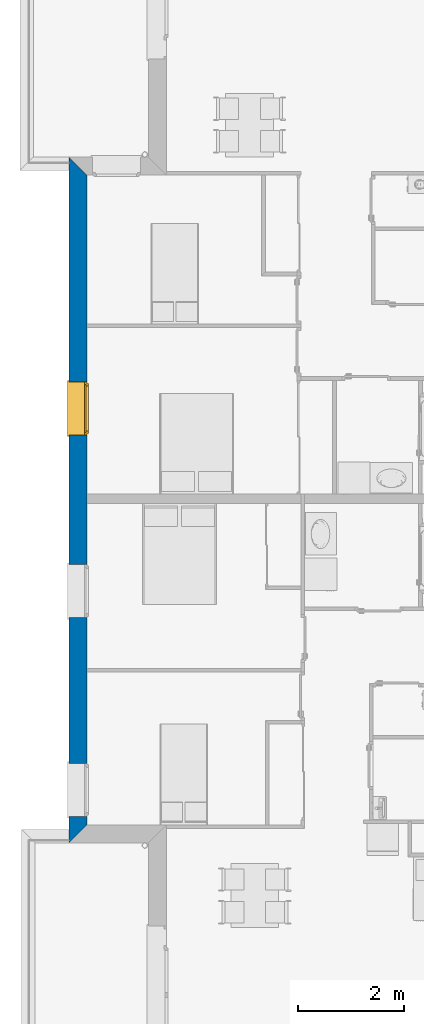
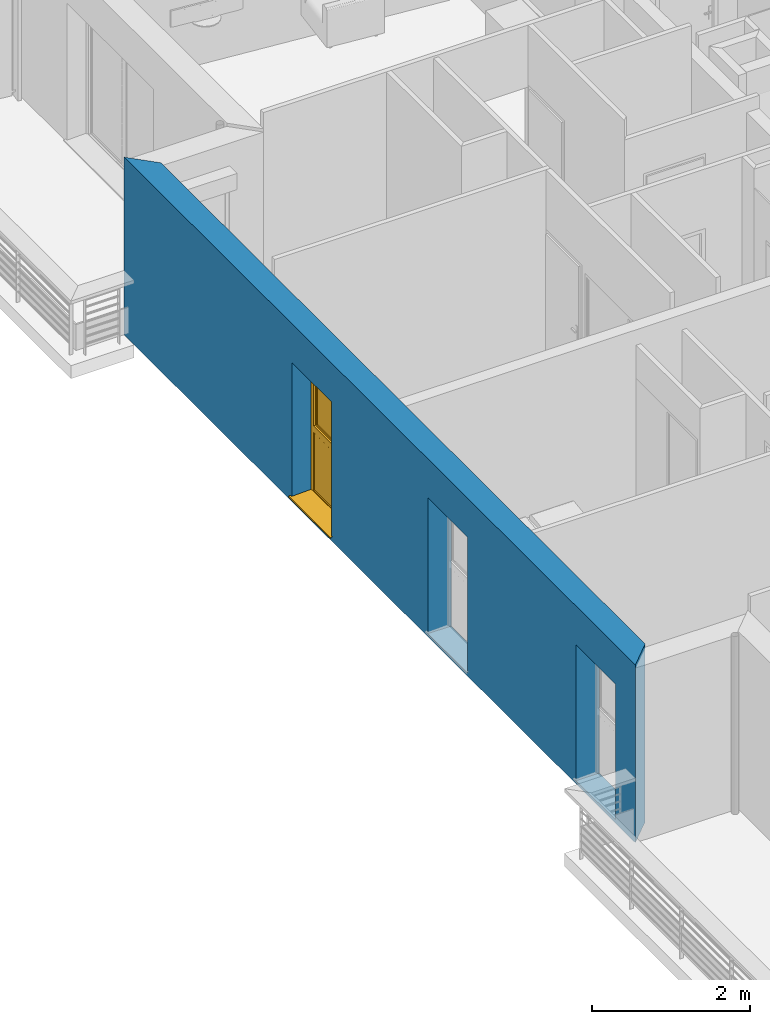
# One storey, part 25 of 164: 1 wall, 1 window, 3 openings.
"""IFC2X3 building model written with IfcOpenShell, lengths in millimetres."""

from ifc_helpers import new_model, entity, si_unit, converted_unit, derived_unit, money_unit, direction, frame, origin_with_axes, place, context, subcontext, project, spatial, polyline, outline, extrude, open_shell, faceted_brep, surface_model, source, transform, mapped, material, layer, layer_set, layer_usage, type_object, element, fill, save


model = new_model("IFC2X3")

# Units and contexts
model_context = context("Model", 3, precision=0.01, world=origin_with_axes(), true_north=direction((0.0, 1.0)))
body_context = subcontext(model_context, "Body", "Model", "MODEL_VIEW")
ifc_project = project(units=[si_unit("LENGTHUNIT", "METRE", prefix="MILLI"), si_unit("AREAUNIT", "SQUARE_METRE"), si_unit("VOLUMEUNIT", "CUBIC_METRE"), converted_unit("PLANEANGLEUNIT", "DEGREE", entity("IfcPlaneAngleMeasure", 0.0174532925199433), si_unit("PLANEANGLEUNIT", "RADIAN"), dimensions=[0, 0, 0, 0, 0, 0, 0]), money_unit("USD"), converted_unit("TIMEUNIT", "Year", entity("IfcTimeMeasure", 31557600.0), si_unit("TIMEUNIT", "SECOND"), dimensions=[0, 0, 1, 0, 0, 0, 0]), si_unit("MASSUNIT", "GRAM", prefix="KILO"), si_unit("THERMODYNAMICTEMPERATUREUNIT", "DEGREE_CELSIUS"), si_unit("LUMINOUSINTENSITYUNIT", "LUMEN"), si_unit("ENERGYUNIT", "JOULE", prefix="MEGA"), derived_unit("THERMALCONDUCTANCEUNIT", [(si_unit("POWERUNIT", "WATT"), 1), (si_unit("LENGTHUNIT", "METRE"), -1), (si_unit("THERMODYNAMICTEMPERATUREUNIT", "KELVIN"), -1)]), derived_unit("SPECIFICHEATCAPACITYUNIT", [(si_unit("ENERGYUNIT", "JOULE"), 1), (si_unit("MASSUNIT", "GRAM", prefix="KILO"), -1), (si_unit("THERMODYNAMICTEMPERATUREUNIT", "KELVIN"), -1)]), derived_unit("MASSDENSITYUNIT", [(si_unit("MASSUNIT", "GRAM", prefix="KILO"), 1), (si_unit("VOLUMEUNIT", "CUBIC_METRE"), -1)])], contexts=[model_context])

# Site, building, storey
site_placement = place(None, origin_with_axes())
site = spatial("IfcSite", under=ifc_project, at=site_placement, Name="Site", CompositionType="ELEMENT")
building_placement = place(site_placement, origin_with_axes())
building = spatial("IfcBuilding", under=site, at=building_placement, Name="Bâtiment", CompositionType="ELEMENT")
storey_placement = place(building_placement, frame((0.0, 0.0, 5750.0), z_axis=(0.0, 0.0, 1.0), x_axis=(1.0, 0.0, 0.0)))
storey = spatial("IfcBuildingStorey", under=building, at=storey_placement, Name="Etage1", CompositionType="ELEMENT", Elevation=5750.0)

# Wall, openings, window
ifc_material_1 = material(Name="Parpaing 312445824")
ifc_layer_1 = layer(ifc_material_1, 180.0, ventilated="UNKNOWN")
ifc_material_2 = material(Name="Isolant styromousse 301821074")
ifc_layer_2 = layer(ifc_material_2, 160.0, ventilated="UNKNOWN")
ifc_layer_set = layer_set([ifc_layer_1, ifc_layer_2], Name="isol int 18+16 0018356637")
ifc_layer_usage = layer_usage(ifc_layer_set, "AXIS2", "POSITIVE", 0.0)
wall_type = type_object("IfcWallType", Name="isol int 18+16 0018356637 340", PredefinedType="NOTDEFINED")
wall_placement = place(storey_placement, frame((2216634.23600678, -626071.2161261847, 0.0), z_axis=(0.0, 0.0, 1.0), x_axis=(5.891582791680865e-06, -0.9999999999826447, 0.0)))
wall = element("IfcWallStandardCase", 1, at=wall_placement, inside=storey, type_object=wall_type, material=ifc_layer_usage, Name="Mur-143", context=body_context, shape_type="SweptSolid", body=[
    extrude(outline(polyline([(-0.001993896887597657, 0.0), (12945.59157326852, 0.0), (12605.59357640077, 340.0000000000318), (340.0000092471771, 340.0000000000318), (-0.001993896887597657, 0.0)])), origin_with_axes(), (0.0, 0.0, 1.0), 2750.0),
])
opening_1_placement = place(wall_placement, frame((4744.546071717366, -1.13686837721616e-10, 49.99999999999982), z_axis=(0.0, 0.0, 1.0), x_axis=(1.0, 0.0, 0.0)))
opening_1 = element("IfcOpeningElement", 2, at=opening_1_placement, cuts=wall, Name="Fen-133", context=body_context, shape_type="Brep", body=[
    faceted_brep([(-499.9999999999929, 289.9999999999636, 2100.0), (-499.9999999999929, 341.0762700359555, 2100.0), (-500.0, 341.0762700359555, 0.0), (-500.0, 289.9999999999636, 0.0), (-499.9999999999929, 280.0000000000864, 2100.0), (-499.9999999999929, 280.0000000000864, 2350.0), (-500.0, 530.0000000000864, 2350.0), (-500.0, 530.0000000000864, 2100.0), (500.0, 341.0762700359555, 2100.0), (500.0, 341.0762700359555, 0.0), (500.0, 289.9999999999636, 0.0), (500.0, -1.076270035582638, 0.0), (-500.0, -1.076270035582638, 0.0), (-500.0, -1.076270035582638, 2100.0), (500.0, 280.0000000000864, 2100.0), (500.0, 280.0000000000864, 2350.0), (499.9999999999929, 529.9999999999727, 2350.0), (499.9999999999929, 529.9999999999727, 2100.0), (500.0, 289.9999999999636, 2100.0), (500.0, -1.076270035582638, 2100.0)], [[[0, 1, 2, 3]], [[1, 0, 4, 5, 6, 7]], [[1, 8, 9, 2]], [[10, 11, 12, 3, 2, 9]], [[4, 0, 3, 12, 13]], [[4, 14, 15, 5]], [[6, 5, 15, 16]], [[7, 6, 16, 17]], [[8, 1, 7, 17]], [[8, 18, 10, 9]], [[18, 14, 19, 11, 10]], [[13, 12, 11, 19]], [[14, 4, 13, 19]], [[18, 8, 17, 16, 15, 14]]]),
])
opening_2_placement = place(wall_placement, frame((11943.66357682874, -1.13686837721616e-10, 49.99999999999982), z_axis=(0.0, 0.0, 1.0), x_axis=(1.0, 0.0, 0.0)))
element("IfcOpeningElement", 3, at=opening_2_placement, cuts=wall, Name="Fen-133", context=body_context, shape_type="Brep", body=[
    faceted_brep([(-500.0, 290.0000000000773, 2100.0), (-500.0000000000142, 341.0762700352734, 2100.0), (-500.0000000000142, 341.0762700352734, 0.0), (-500.0, 290.0000000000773, 0.0), (-500.0, 280.0000000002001, 2100.0), (-500.0, 280.0000000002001, 2350.0), (-500.0000000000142, 529.9999999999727, 2350.0), (-500.0000000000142, 529.9999999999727, 2100.0), (500.0, 341.0762700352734, 2100.0), (499.9999999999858, 341.0762700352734, 0.0), (499.9999999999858, 289.9999999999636, 0.0), (500.0, -1.076270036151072, 0.0), (-500.0, -1.076270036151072, 0.0), (-500.0, -1.076270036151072, 2100.0), (500.0, 280.0000000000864, 2100.0), (500.0, 280.0000000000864, 2350.0), (500.0, 529.9999999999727, 2350.0), (500.0, 529.9999999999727, 2100.0), (500.0, 289.9999999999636, 2100.0), (500.0, -1.076270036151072, 2100.0)], [[[0, 1, 2, 3]], [[1, 0, 4, 5, 6, 7]], [[1, 8, 9, 2]], [[10, 11, 12, 3, 2, 9]], [[4, 0, 3, 12, 13]], [[4, 14, 15, 5]], [[15, 16, 6, 5]], [[16, 17, 7, 6]], [[8, 1, 7, 17]], [[8, 18, 10, 9]], [[18, 14, 19, 11, 10]], [[13, 12, 11, 19]], [[14, 4, 13, 19]], [[18, 8, 17, 16, 15, 14]]]),
])
opening_3_placement = place(wall_placement, frame((8194.484965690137, -1.13686837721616e-10, 49.99999999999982), z_axis=(0.0, 0.0, 1.0), x_axis=(1.0, 0.0, 0.0)))
element("IfcOpeningElement", 4, at=opening_3_placement, cuts=wall, Name="Fen-133", context=body_context, shape_type="Brep", body=[
    faceted_brep([(-500.0, 290.0000000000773, 2100.0), (-499.9999999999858, 341.076270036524, 2100.0), (-499.9999999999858, 341.076270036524, 0.0), (-499.9999999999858, 290.0000000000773, 0.0), (-500.0, 280.0000000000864, 2100.0), (-500.0, 280.0000000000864, 2350.0), (-499.9999999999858, 530.0000000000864, 2350.0), (-499.9999999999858, 530.0000000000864, 2100.0), (500.0000000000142, 341.076270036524, 2100.0), (500.0, 341.076270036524, 0.0), (500.0000000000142, 289.9999999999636, 0.0), (500.0000000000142, -1.076270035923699, 0.0), (-499.9999999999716, -1.076270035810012, 0.0), (-499.9999999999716, -1.076270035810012, 2100.0), (500.0000000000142, 280.0000000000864, 2100.0), (500.0000000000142, 280.0000000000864, 2350.0), (500.0000000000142, 530.0000000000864, 2350.0), (500.0000000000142, 530.0000000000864, 2100.0), (500.0000000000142, 289.9999999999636, 2100.0), (500.0000000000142, -1.076270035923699, 2100.0)], [[[0, 1, 2, 3]], [[1, 0, 4, 5, 6, 7]], [[1, 8, 9, 2]], [[10, 11, 12, 3, 2, 9]], [[4, 0, 3, 12, 13]], [[4, 14, 15, 5]], [[6, 5, 15, 16]], [[7, 6, 16, 17]], [[8, 1, 7, 17]], [[8, 18, 10, 9]], [[18, 14, 19, 11, 10]], [[13, 12, 11, 19]], [[14, 4, 13, 19]], [[18, 8, 17, 16, 15, 14]]]),
])
window_style = type_object("IfcWindowStyle", Name="Fenêtre 27", ConstructionType="NOTDEFINED", OperationType="DOUBLE_PANEL_HORIZONTAL", ParameterTakesPrecedence=False, Sizeable=False)
shared_shape = source(origin_with_axes(), body_context, "Body", "SurfaceModel", [
    surface_model("IfcShellBasedSurfaceModel", [(-500.0, -51.00000000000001, 40.00000000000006), (500.0, -51.00000000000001, 40.0), (500.0, -51.00000000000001, 50.0), (-500.0, -51.00000000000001, 50.00000000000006), (-530.0, -369.9999999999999, 28.96551724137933), (530.0, -369.9999999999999, 28.96551724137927), (530.0, -339.9999999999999, 30.00324289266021), (500.0, -339.9999999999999, 30.00324289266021), (-500.0, -339.9999999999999, 30.00324289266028), (-530.0, -339.9999999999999, 30.00324289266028), (-530.0, -369.9999999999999, 8.96551724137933), (530.0, -369.9999999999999, 8.965517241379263), (-530.0, -359.9999999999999, 18.96551724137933), (530.0, -359.9999999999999, 18.96551724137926)], [open_shell([[[0, 1, 2, 3]], [[4, 5, 6, 7, 1, 0, 8, 9]], [[10, 11, 5, 4]], [[12, 13, 11, 10]]])]),
    faceted_brep([(500.0, -59.99999999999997, 2350.0), (500.0, 190.0, 2350.0), (497.0, 190.0, 2350.0), (497.0, -59.99999999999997, 2350.0), (500.0, -59.99999999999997, 2100.0), (500.0, 190.0, 2100.0), (497.0, 190.0, 2100.0), (497.0, -59.99999999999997, 2100.0)], [[[0, 1, 2, 3]], [[0, 4, 5, 1]], [[1, 5, 6, 2]], [[3, 2, 6, 7]], [[4, 0, 3, 7]], [[5, 4, 7, 6]]]),
    faceted_brep([(-497.0, -59.99999999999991, 2350.0), (-497.0, 190.0000000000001, 2350.0), (-500.0, 190.0000000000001, 2350.0), (-500.0, -59.99999999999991, 2350.0), (-497.0, -59.99999999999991, 2100.0), (-497.0, 190.0000000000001, 2100.0), (-500.0, 190.0000000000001, 2100.0), (-500.0, -59.99999999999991, 2100.0)], [[[0, 1, 2, 3]], [[0, 4, 5, 1]], [[1, 5, 6, 2]], [[3, 2, 6, 7]], [[4, 0, 3, 7]], [[5, 4, 7, 6]]]),
    faceted_brep([(497.0, -60.0, 2100.0), (497.0, -60.0, 2350.0), (-497.0, -59.99999999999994, 2350.0), (-497.0, -59.99999999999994, 2100.0), (497.0, -56.99999999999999, 2100.0), (497.0, -56.99999999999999, 2347.0), (497.0, 187.0, 2347.0), (497.0, 187.0, 2103.0), (497.0, -37.99999999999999, 2103.0), (497.0, -37.99999999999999, 2100.0), (497.0, 190.0, 2100.0), (497.0, 190.0, 2350.0), (-497.0, 190.0000000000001, 2350.0), (-497.0, 190.0000000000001, 2100.0), (-497.0, -37.99999999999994, 2100.0), (-497.0, -37.99999999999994, 2103.0), (-497.0, 187.0000000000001, 2103.0), (-497.0, 187.0000000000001, 2347.0), (-497.0, -56.99999999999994, 2347.0), (-497.0, -56.99999999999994, 2100.0)], [[[0, 1, 2, 3]], [[0, 4, 5, 6, 7, 8, 9, 10, 11, 1]], [[1, 11, 12, 2]], [[3, 2, 12, 13, 14, 15, 16, 17, 18, 19]], [[4, 0, 3, 19]], [[5, 4, 19, 18]], [[6, 5, 18, 17]], [[7, 6, 17, 16]], [[8, 7, 16, 15]], [[9, 8, 15, 14]], [[10, 9, 14, 13]], [[11, 10, 13, 12]]]),
    faceted_brep([(494.0, -40.37442957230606, 2206.419644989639), (494.0, -35.54711042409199, 2188.403844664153), (494.0, -27.66471820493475, 2171.5), (494.0, -16.9667554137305, 2156.22172576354), (494.0, -3.778274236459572, 2143.03324458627), (494.0, 11.50000000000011, 2132.335281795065), (494.0, 28.40384466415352, 2124.452889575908), (494.0, 46.4196449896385, 2119.625570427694), (494.0, 65.00000000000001, 2118.0), (494.0, 83.58035501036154, 2119.625570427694), (494.0, 101.5961553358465, 2124.452889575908), (494.0, 118.4999999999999, 2132.335281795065), (494.0, 133.7782742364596, 2143.03324458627), (494.0, 146.9667554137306, 2156.22172576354), (494.0, 157.6647182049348, 2171.5), (494.0, 165.5471104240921, 2188.403844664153), (494.0, 170.3744295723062, 2206.419644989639), (494.0, 171.9999999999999, 2225.0), (494.0, 170.3744295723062, 2243.580355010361), (494.0, 165.5471104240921, 2261.596155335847), (494.0, 157.6647182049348, 2278.5), (494.0, 146.9667554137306, 2293.77827423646), (494.0, 133.7782742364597, 2306.966755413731), (494.0, 118.5, 2317.664718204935), (494.0, 101.5961553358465, 2325.547110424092), (494.0, 83.58035501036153, 2330.374429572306), (494.0, 64.99999999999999, 2332.0), (494.0, 46.41964498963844, 2330.374429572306), (494.0, 28.40384466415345, 2325.547110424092), (494.0, 11.5, 2317.664718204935), (494.0, -3.778274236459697, 2306.966755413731), (494.0, -16.96675541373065, 2293.77827423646), (494.0, -27.66471820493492, 2278.5), (494.0, -35.54711042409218, 2261.596155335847), (494.0, -40.37442957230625, 2243.580355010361), (494.0, -41.99999999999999, 2225.0), (-494.0, -40.374429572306, 2206.419644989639), (-494.0, -35.54711042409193, 2188.403844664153), (-494.0, -27.6647182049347, 2171.5), (-494.0, -16.96675541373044, 2156.22172576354), (-494.0, -3.778274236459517, 2143.03324458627), (-494.0, 11.50000000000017, 2132.335281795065), (-494.0, 28.40384466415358, 2124.452889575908), (-494.0, 46.41964498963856, 2119.625570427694), (-494.0, 65.00000000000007, 2118.0), (-494.0, 83.5803550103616, 2119.625570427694), (-494.0, 101.5961553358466, 2124.452889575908), (-494.0, 118.5, 2132.335281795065), (-494.0, 133.7782742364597, 2143.03324458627), (-494.0, 146.9667554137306, 2156.22172576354), (-494.0, 157.6647182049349, 2171.5), (-494.0, 165.5471104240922, 2188.403844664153), (-494.0, 170.3744295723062, 2206.419644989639), (-494.0, 172.0, 2225.0), (-494.0, 170.3744295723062, 2243.580355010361), (-494.0, 165.5471104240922, 2261.596155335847), (-494.0, 157.6647182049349, 2278.5), (-494.0, 146.9667554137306, 2293.77827423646), (-494.0, 133.7782742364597, 2306.966755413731), (-494.0, 118.5, 2317.664718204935), (-494.0, 101.5961553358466, 2325.547110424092), (-494.0, 83.58035501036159, 2330.374429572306), (-494.0, 65.00000000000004, 2332.0), (-494.0, 46.41964498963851, 2330.374429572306), (-494.0, 28.40384466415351, 2325.547110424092), (-494.0, 11.50000000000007, 2317.664718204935), (-494.0, -3.778274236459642, 2306.966755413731), (-494.0, -16.96675541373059, 2293.77827423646), (-494.0, -27.66471820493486, 2278.5), (-494.0, -35.54711042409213, 2261.596155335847), (-494.0, -40.37442957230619, 2243.580355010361), (-494.0, -41.99999999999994, 2225.0)], [[[0, 1, 2, 3, 4, 5, 6, 7, 8, 9, 10, 11, 12, 13, 14, 15, 16, 17, 18, 19, 20, 21, 22, 23, 24, 25, 26, 27, 28, 29, 30, 31, 32, 33, 34, 35]], [[1, 0, 36, 37]], [[2, 1, 37, 38]], [[3, 2, 38, 39]], [[4, 3, 39, 40]], [[5, 4, 40, 41]], [[6, 5, 41, 42]], [[7, 6, 42, 43]], [[8, 7, 43, 44]], [[9, 8, 44, 45]], [[10, 9, 45, 46]], [[11, 10, 46, 47]], [[12, 11, 47, 48]], [[13, 12, 48, 49]], [[14, 13, 49, 50]], [[15, 14, 50, 51]], [[16, 15, 51, 52]], [[17, 16, 52, 53]], [[18, 17, 53, 54]], [[19, 18, 54, 55]], [[20, 19, 55, 56]], [[21, 20, 56, 57]], [[22, 21, 57, 58]], [[23, 22, 58, 59]], [[24, 23, 59, 60]], [[25, 24, 60, 61]], [[26, 25, 61, 62]], [[27, 26, 62, 63]], [[28, 27, 63, 64]], [[29, 28, 64, 65]], [[30, 29, 65, 66]], [[31, 30, 66, 67]], [[32, 31, 67, 68]], [[33, 32, 68, 69]], [[34, 33, 69, 70]], [[35, 34, 70, 71]], [[0, 35, 71, 36]], [[36, 71, 70, 69, 68, 67, 66, 65, 64, 63, 62, 61, 60, 59, 58, 57, 56, 55, 54, 53, 52, 51, 50, 49, 48, 47, 46, 45, 44, 43, 42, 41, 40, 39, 38, 37]]]),
    faceted_brep([(-500.0, -34.99999999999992, 30.0), (-500.0, -59.99999999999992, 30.0), (-500.0, -59.99999999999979, 2100.0), (-500.0, -34.99999999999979, 2100.0), (-475.0, -34.99999999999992, 30.0), (-475.0, -37.99999999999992, 30.0), (-497.0, -37.99999999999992, 30.0), (-497.0, -56.99999999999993, 30.0), (-475.0, -56.99999999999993, 30.0), (-475.0, -59.99999999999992, 30.0), (-475.0, -59.99999999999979, 2100.0), (-475.0, -56.99999999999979, 2100.0), (-497.0, -56.99999999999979, 2100.0), (-497.0, -37.99999999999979, 2100.0), (-475.0, -37.99999999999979, 2100.0), (-475.0, -34.99999999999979, 2100.0)], [[[0, 1, 2, 3]], [[0, 4, 5, 6, 7, 8, 9, 1]], [[1, 9, 10, 2]], [[3, 2, 10, 11, 12, 13, 14, 15]], [[4, 0, 3, 15]], [[5, 4, 15, 14]], [[6, 5, 14, 13]], [[7, 6, 13, 12]], [[8, 7, 12, 11]], [[9, 8, 11, 10]]]),
    faceted_brep([(500.0, -34.99999999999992, 30.0), (500.0, -34.99999999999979, 2100.0), (500.0, -59.99999999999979, 2100.0), (500.0, -59.99999999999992, 30.0), (475.0, -34.99999999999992, 30.0), (475.0, -34.99999999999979, 2100.0), (475.0, -37.99999999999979, 2100.0), (497.0, -37.99999999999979, 2100.0), (497.0, -56.99999999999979, 2100.0), (475.0, -56.99999999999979, 2100.0), (475.0, -59.99999999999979, 2100.0), (475.0, -59.99999999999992, 30.0), (475.0, -56.99999999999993, 30.0), (497.0, -56.99999999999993, 30.0), (497.0, -37.99999999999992, 30.0), (475.0, -37.99999999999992, 30.0)], [[[0, 1, 2, 3]], [[4, 5, 1, 0]], [[1, 5, 6, 7, 8, 9, 10, 2]], [[3, 2, 10, 11]], [[0, 3, 11, 12, 13, 14, 15, 4]], [[15, 6, 5, 4]], [[14, 7, 6, 15]], [[13, 8, 7, 14]], [[12, 9, 8, 13]], [[11, 10, 9, 12]]]),
    faceted_brep([(-497.0, -46.66666666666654, 2225.0), (497.0, -46.6666666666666, 2225.0), (497.0, -46.6666666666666, 2216.666666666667), (-497.0, -46.66666666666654, 2216.666666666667), (-497.0, -51.66666666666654, 2225.0), (497.0, -51.6666666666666, 2225.0), (497.0, -51.6666666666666, 2216.666666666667), (497.0, -49.99999999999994, 2200.0), (497.0, -44.99999999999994, 2200.0), (-497.0, -44.99999999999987, 2200.0), (-497.0, -49.99999999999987, 2200.0), (-497.0, -51.66666666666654, 2216.666666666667)], [[[0, 1, 2, 3]], [[1, 0, 4, 5]], [[1, 5, 6, 7, 8, 2]], [[2, 8, 9, 3]], [[4, 0, 3, 9, 10, 11]], [[6, 5, 4, 11]], [[7, 6, 11, 10]], [[8, 7, 10, 9]]]),
    faceted_brep([(497.0, -44.99999999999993, 2200.0), (497.0, -46.6666666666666, 2183.333333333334), (-497.0, -46.66666666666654, 2183.333333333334), (-497.0, -44.99999999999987, 2200.0), (497.0, -49.99999999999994, 2200.0), (497.0, -51.6666666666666, 2183.333333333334), (497.0, -51.6666666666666, 2166.666666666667), (497.0, -49.99999999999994, 2150.000000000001), (497.0, -44.99999999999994, 2150.000000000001), (497.0, -46.6666666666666, 2166.666666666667), (-497.0, -46.66666666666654, 2166.666666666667), (-497.0, -44.99999999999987, 2150.000000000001), (-497.0, -49.99999999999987, 2150.000000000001), (-497.0, -51.66666666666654, 2166.666666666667), (-497.0, -51.66666666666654, 2183.333333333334), (-497.0, -49.99999999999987, 2200.0)], [[[0, 1, 2, 3]], [[0, 4, 5, 6, 7, 8, 9, 1]], [[1, 9, 10, 2]], [[3, 2, 10, 11, 12, 13, 14, 15]], [[4, 0, 3, 15]], [[5, 4, 15, 14]], [[6, 5, 14, 13]], [[7, 6, 13, 12]], [[8, 7, 12, 11]], [[9, 8, 11, 10]]]),
    faceted_brep([(497.0, -44.99999999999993, 2150.000000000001), (497.0, -46.6666666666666, 2133.333333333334), (-497.0, -46.66666666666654, 2133.333333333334), (-497.0, -44.99999999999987, 2150.000000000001), (497.0, -49.99999999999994, 2150.000000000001), (497.0, -51.6666666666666, 2133.333333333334), (497.0, -51.6666666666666, 2116.666666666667), (497.0, -49.99999999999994, 2100.000000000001), (497.0, -44.99999999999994, 2100.000000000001), (497.0, -46.6666666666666, 2116.666666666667), (-497.0, -46.66666666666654, 2116.666666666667), (-497.0, -44.99999999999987, 2100.000000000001), (-497.0, -49.99999999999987, 2100.000000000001), (-497.0, -51.66666666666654, 2116.666666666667), (-497.0, -51.66666666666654, 2133.333333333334), (-497.0, -49.99999999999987, 2150.000000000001)], [[[0, 1, 2, 3]], [[0, 4, 5, 6, 7, 8, 9, 1]], [[1, 9, 10, 2]], [[3, 2, 10, 11, 12, 13, 14, 15]], [[4, 0, 3, 15]], [[5, 4, 15, 14]], [[6, 5, 14, 13]], [[7, 6, 13, 12]], [[8, 7, 12, 11]], [[9, 8, 11, 10]]]),
    faceted_brep([(475.0000000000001, 0.0, 2050.0), (475.0000000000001, -25.00000000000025, 2050.0), (450.0, -25.00000000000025, 2050.0), (450.0, -50.00000000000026, 2050.0), (500.0, -50.00000000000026, 2050.0), (500.0, 0.0, 2050.0), (475.0000000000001, 0.0, 1025.0), (475.0000000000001, -25.00000000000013, 1025.0), (450.0, -25.00000000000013, 1050.0), (450.0, -25.00000000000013, 1025.0), (450.0, -50.00000000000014, 1050.0), (450.0, -50.00000000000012, 950.0), (450.0, -50.00000000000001, 50.00000000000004), (500.0, -50.00000000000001, 50.00000000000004), (500.0, 0.0, 50.00000000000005), (450.0, 0.0, 50.00000000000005), (450.0, 0.0, 950.0), (450.0, 0.0, 1025.0)], [[[0, 1, 2, 3, 4, 5]], [[1, 0, 6, 7]], [[8, 2, 1, 7, 9]], [[2, 8, 10, 3]], [[10, 11, 12, 13, 4, 3]], [[5, 4, 13, 14]], [[6, 0, 5, 14, 15, 16, 17]], [[6, 17, 9, 7]], [[9, 17, 16, 11, 10, 8]], [[15, 12, 11, 16]], [[14, 13, 12, 15]]]),
    faceted_brep([(-450.0, -25.00000000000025, 2050.0), (-475.0000000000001, -25.00000000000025, 2050.0), (-475.0000000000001, 0.0, 2050.0), (-500.0, 0.0, 2050.0), (-500.0, -50.00000000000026, 2050.0), (-450.0, -50.00000000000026, 2050.0), (-450.0, -25.00000000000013, 1050.0), (-450.0, -25.00000000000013, 1025.0), (-475.0000000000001, -25.00000000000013, 1025.0), (-475.0000000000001, 0.0, 1025.0), (-450.0, 0.0, 1025.0), (-450.0, 0.0, 950.0), (-450.0, 0.0, 50.00000000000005), (-500.0, 0.0, 50.00000000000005), (-500.0, -50.00000000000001, 50.00000000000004), (-450.0, -50.00000000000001, 50.00000000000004), (-450.0, -50.00000000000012, 950.0), (-450.0, -50.00000000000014, 1050.0)], [[[0, 1, 2, 3, 4, 5]], [[1, 0, 6, 7, 8]], [[9, 2, 1, 8]], [[9, 10, 11, 12, 13, 3, 2]], [[13, 14, 4, 3]], [[14, 15, 16, 17, 5, 4]], [[6, 0, 5, 17]], [[7, 6, 17, 16, 11, 10]], [[10, 9, 8, 7]], [[11, 16, 15, 12]], [[12, 15, 14, 13]]]),
    faceted_brep([(450.0, -25.00000000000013, 1050.0), (-450.0, -25.00000000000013, 1050.0), (-450.0, -50.00000000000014, 1050.0), (450.0, -50.00000000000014, 1050.0), (-450.0, -25.00000000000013, 1025.0), (450.0, -25.00000000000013, 1025.0), (-450.0, 0.0, 1025.0), (-450.0, 0.0, 950.0), (-450.0, -50.00000000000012, 950.0), (450.0, -50.00000000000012, 950.0), (450.0, 0.0, 950.0), (450.0, 0.0, 1025.0)], [[[0, 1, 2, 3]], [[4, 1, 0, 5]], [[4, 6, 7, 8, 2, 1]], [[8, 9, 3, 2]], [[5, 0, 3, 9, 10, 11]], [[11, 6, 4, 5]], [[6, 11, 10, 7]], [[10, 9, 8, 7]]]),
    faceted_brep([(475.0000000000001, 0.0, 2050.0), (475.0000000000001, 0.0, 2075.0), (-475.0000000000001, 0.0, 2075.0), (-475.0000000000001, 0.0, 2050.0), (-500.0, 0.0, 2050.0), (-500.0, 0.0, 2100.0), (500.0, 0.0, 2100.0), (500.0, 0.0, 2050.0), (475.0000000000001, -25.00000000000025, 2050.0), (475.0000000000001, -25.00000000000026, 2075.0), (-475.0000000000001, -25.00000000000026, 2075.0), (-475.0000000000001, -25.00000000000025, 2050.0), (-450.0, -25.00000000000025, 2050.0), (-450.0, -50.00000000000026, 2050.0), (-500.0, -50.00000000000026, 2050.0), (-500.0, -50.00000000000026, 2100.0), (500.0, -50.00000000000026, 2100.0), (500.0, -50.00000000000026, 2050.0), (450.0, -50.00000000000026, 2050.0), (450.0, -25.00000000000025, 2050.0)], [[[0, 1, 2, 3, 4, 5, 6, 7]], [[1, 0, 8, 9]], [[2, 1, 9, 10]], [[3, 2, 10, 11]], [[11, 12, 13, 14, 4, 3]], [[4, 14, 15, 5]], [[5, 15, 16, 6]], [[6, 16, 17, 7]], [[8, 0, 7, 17, 18, 19]], [[12, 11, 10, 9, 8, 19]], [[12, 19, 18, 13]], [[14, 13, 18, 17, 16, 15]]]),
    faceted_brep([(450.0, -50.00000000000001, 50.0), (500.0, -50.00000000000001, 50.0), (500.0, 0.0, 50.00000000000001), (450.0, 0.0, 50.00000000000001), (-450.0, -50.00000000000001, 50.0), (-500.0, -50.00000000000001, 50.0), (-500.0, -50.0, 0.0), (500.0, -50.0, 0.0), (500.0, 0.0, 0.0), (-500.0, 0.0, 0.0), (-500.0, 0.0, 50.00000000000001), (-450.0, 0.0, 50.00000000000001)], [[[0, 1, 2, 3]], [[0, 4, 5, 6, 7, 1]], [[1, 7, 8, 2]], [[3, 2, 8, 9, 10, 11]], [[4, 0, 3, 11]], [[5, 4, 11, 10]], [[6, 5, 10, 9]], [[7, 6, 9, 8]]]),
    faceted_brep([(425.0000000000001, -25.00000000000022, 2025.0), (475.0000000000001, -25.00000000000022, 2025.0), (475.0000000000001, 24.99999999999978, 2025.0), (425.0000000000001, 24.99999999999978, 2025.0), (425.0000000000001, -25.00000000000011, 1075.0), (475.0000000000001, -25.0000000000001, 1075.0), (475.0000000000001, 24.9999999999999, 1075.0), (425.0000000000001, 24.9999999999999, 1075.0)], [[[0, 1, 2, 3]], [[0, 4, 5, 1]], [[1, 5, 6, 2]], [[3, 2, 6, 7]], [[4, 0, 3, 7]], [[5, 4, 7, 6]]]),
    faceted_brep([(-425.0000000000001, -25.00000000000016, 1075.0), (-475.0000000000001, -25.00000000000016, 1075.0), (-475.0000000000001, 24.99999999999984, 1075.0), (-425.0000000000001, 24.99999999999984, 1075.0), (-425.0000000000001, -25.00000000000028, 2025.0), (-475.0000000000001, -25.00000000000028, 2025.0), (-475.0000000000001, 24.99999999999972, 2025.0), (-425.0000000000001, 24.99999999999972, 2025.0)], [[[0, 1, 2, 3]], [[0, 4, 5, 1]], [[1, 5, 6, 2]], [[3, 2, 6, 7]], [[4, 0, 3, 7]], [[5, 4, 7, 6]]]),
    faceted_brep([(-475.0000000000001, -25.00000000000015, 1025.0), (-475.0000000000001, -25.00000000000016, 1075.0), (-475.0000000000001, 24.99999999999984, 1075.0), (-475.0000000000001, 24.99999999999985, 1025.0), (475.0000000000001, -25.0000000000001, 1025.0), (475.0000000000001, -25.0000000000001, 1075.0), (425.0000000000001, -25.00000000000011, 1075.0), (-425.0000000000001, -25.00000000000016, 1075.0), (-425.0000000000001, 24.99999999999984, 1075.0), (425.0000000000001, 24.9999999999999, 1075.0), (475.0000000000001, 24.9999999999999, 1075.0), (475.0000000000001, 24.9999999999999, 1025.0)], [[[0, 1, 2, 3]], [[0, 4, 5, 6, 7, 1]], [[1, 7, 8, 2]], [[3, 2, 8, 9, 10, 11]], [[4, 0, 3, 11]], [[5, 4, 11, 10]], [[6, 5, 10, 9]], [[7, 6, 9, 8]]]),
    faceted_brep([(475.0000000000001, -25.00000000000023, 2075.0), (475.0000000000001, -25.00000000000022, 2025.0), (475.0000000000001, 24.99999999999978, 2025.0), (475.0000000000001, 24.99999999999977, 2075.0), (-475.0000000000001, -25.00000000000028, 2075.0), (-475.0000000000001, -25.00000000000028, 2025.0), (-425.0000000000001, -25.00000000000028, 2025.0), (425.0000000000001, -25.00000000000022, 2025.0), (425.0000000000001, 24.99999999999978, 2025.0), (-425.0000000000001, 24.99999999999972, 2025.0), (-475.0000000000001, 24.99999999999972, 2025.0), (-475.0000000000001, 24.99999999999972, 2075.0)], [[[0, 1, 2, 3]], [[0, 4, 5, 6, 7, 1]], [[1, 7, 8, 2]], [[3, 2, 8, 9, 10, 11]], [[4, 0, 3, 11]], [[5, 4, 11, 10]], [[6, 5, 10, 9]], [[7, 6, 9, 8]]]),
    surface_model("IfcShellBasedSurfaceModel", [(425.0000000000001, -10.00000000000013, 1075.0), (425.0000000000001, -10.00000000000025, 2025.0), (-425.0000000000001, -10.00000000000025, 2025.0), (-425.0000000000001, -10.00000000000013, 1075.0)], [open_shell([[[0, 1, 2, 3]]])]),
    surface_model("IfcShellBasedSurfaceModel", [(425.0000000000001, 9.999999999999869, 1075.0), (-425.0000000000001, 9.999999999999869, 1075.0), (-425.0000000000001, 9.999999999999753, 2025.0), (425.0000000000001, 9.999999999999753, 2025.0)], [open_shell([[[0, 1, 2, 3]]])]),
    surface_model("IfcShellBasedSurfaceModel", [(450.0, -35.0, 49.99999999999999), (450.0, -35.00000000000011, 950.0), (-450.0, -35.00000000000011, 950.0), (-450.0, -35.0, 49.99999999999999)], [open_shell([[[0, 1, 2, 3]]])]),
    surface_model("IfcShellBasedSurfaceModel", [(450.0, -15.0, 49.99999999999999), (-450.0, -15.0, 49.99999999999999), (-450.0, -15.00000000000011, 950.0), (450.0, -15.00000000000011, 950.0)], [open_shell([[[0, 1, 2, 3]]])]),
])
window_placement = place(opening_1_placement, frame((-499.9999999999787, 0.0, 0.0), z_axis=(0.0, 0.0, 1.0), x_axis=(1.0, 0.0, 0.0)))
window = element("IfcWindow", 5, at=window_placement, inside=storey, type_object=window_style, Name="Fen-133", OverallHeight=2100.0, OverallWidth=1000.0, context=body_context, shape_type="MappedRepresentation", body=[
    mapped(shared_shape, transform((500.0, 339.9999999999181, 0.0))),
])
fill(opening_1, window)

save(model, "model.ifc")
